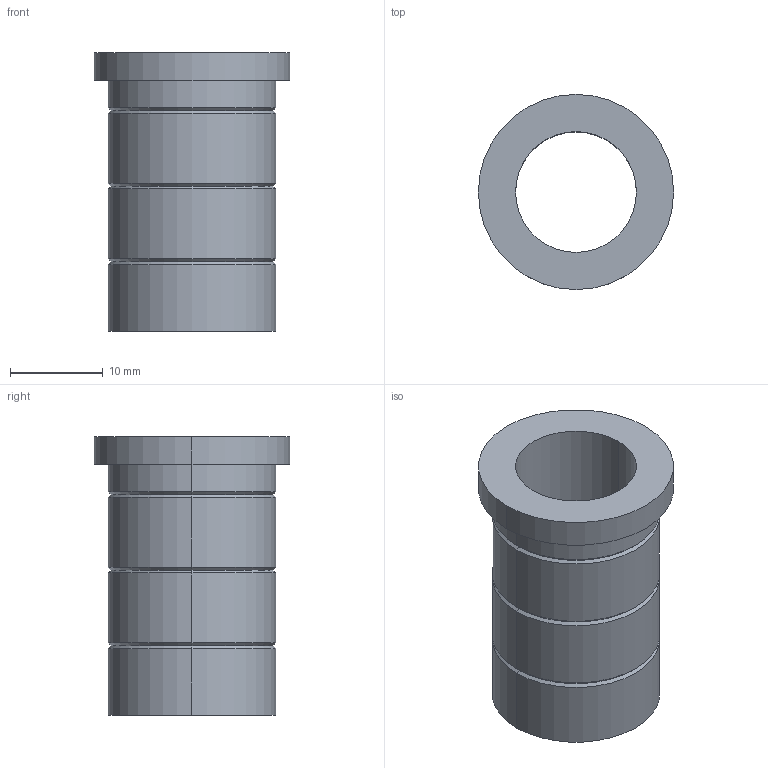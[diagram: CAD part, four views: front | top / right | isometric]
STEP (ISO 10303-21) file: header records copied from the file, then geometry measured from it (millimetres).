
FILE_DESCRIPTION(/* description */ (''),/* implementation_level */ '2;1');
FILE_NAME(/* name */ '3d_sgbt13-30_00015_r00.stp',/* time_stamp */ '2011-01-10T14:11:12+09:00',/* author */ ('MISUMI'),/* organization */ (''),/* preprocessor_version */ 'ST-DEVELOPER v11',/* originating_system */ 'UGS - NX 5.0',/* authorisation */ '');
FILE_SCHEMA (('CONFIG_CONTROL_DESIGN'));
Length unit declared in the file: millimetre
Products named in the file (1): 3d_sgbt13-30_00015_r00
Bounding box: 21 x 21 x 30 mm (x, y, z)
Volume: 3912.7 mm3; surface area: 3417 mm2
Topology: 1 solids, 1 shells, 27 faces, 54 edges, 30 vertices
Faces by surface type: cylinder 12, cone 12, plane 3
Entity records: 784 total; most frequent: DIRECTION 140, CARTESIAN_POINT 112, ORIENTED_EDGE 108, AXIS2_PLACEMENT_3D 58, EDGE_CURVE 54, EDGE_LOOP 30, VERTEX_POINT 30, CIRCLE 30
